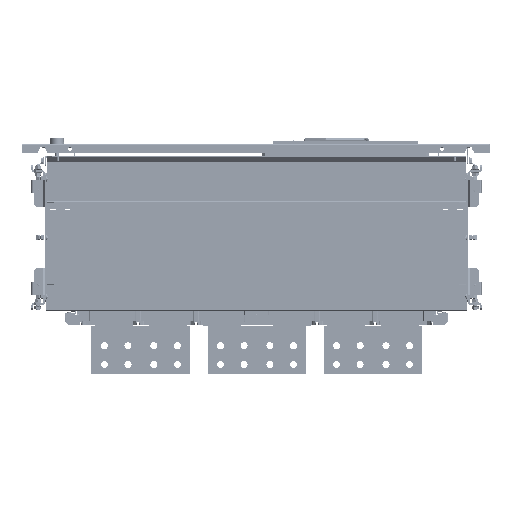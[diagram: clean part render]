
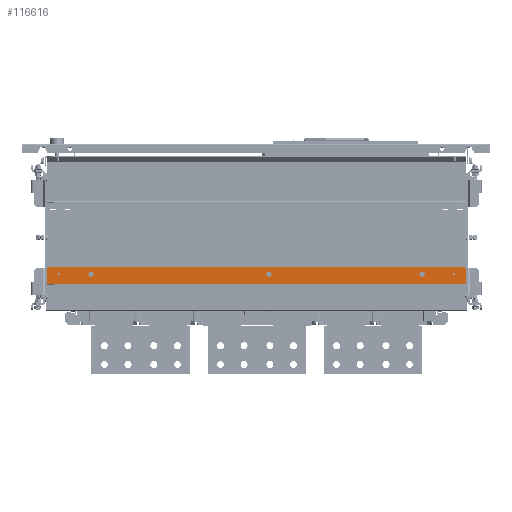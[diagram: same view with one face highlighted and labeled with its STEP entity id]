
A CAD part, front view. The second image highlights one B-rep face of the part: STEP entity #116616.
In plain terms, the highlighted planar face has unit normal (0, -1, 0).
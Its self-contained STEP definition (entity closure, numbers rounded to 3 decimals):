
#115081=CARTESIAN_POINT(' ',(-445.,-5.,-270.4));
#115082=VERTEX_POINT(' ',#115081);
#115246=CARTESIAN_POINT(' ',(-445.,-5.,-239.2));
#115251=DIRECTION(' ',(0.,0.,-1.));
#115256=VECTOR(' ',#115251,1.);
#115261=LINE('',#115246,#115256);
#115266=CARTESIAN_POINT(' ',(-445.,-5.,-239.2));
#115267=VERTEX_POINT(' ',#115266);
#115271=EDGE_CURVE(' ',#115267,#115082,#115261,.T.);
#115711=CARTESIAN_POINT(' ',(445.,-5.,-270.4));
#115712=VERTEX_POINT(' ',#115711);
#115731=CARTESIAN_POINT(' ',(-445.,-5.,-270.4));
#115736=DIRECTION(' ',(1.,0.,0.));
#115741=VECTOR(' ',#115736,1.);
#115746=LINE('',#115731,#115741);
#115751=EDGE_CURVE(' ',#115082,#115712,#115746,.T.);
#115811=DIRECTION(' ',(0.,-1.,0.));
#115816=CARTESIAN_POINT(' ',(-445.,-5.,-270.4));
#115821=DIRECTION(' ',(1.,0.,0.));
#115826=AXIS2_PLACEMENT_3D(' ',#115816,#115811,#115821);
#115831=PLANE('NONE',#115826);
#115836=CARTESIAN_POINT(' ',(445.,-5.,-239.2));
#115841=DIRECTION(' ',(0.,0.,-1.));
#115846=VECTOR(' ',#115841,1.);
#115851=LINE('',#115836,#115846);
#115856=CARTESIAN_POINT(' ',(445.,-5.,-239.2));
#115857=VERTEX_POINT(' ',#115856);
#115861=EDGE_CURVE(' ',#115857,#115712,#115851,.T.);
#115866=ORIENTED_EDGE(' ',*,*,#115861,.F.);
#115871=CARTESIAN_POINT(' ',(445.,-5.,-239.2));
#115876=DIRECTION(' ',(-0.707,0.,0.707));
#115881=VECTOR(' ',#115876,1.);
#115886=LINE('',#115871,#115881);
#115891=CARTESIAN_POINT(' ',(440.,-5.,-234.2));
#115892=VERTEX_POINT(' ',#115891);
#115896=EDGE_CURVE(' ',#115857,#115892,#115886,.T.);
#115901=ORIENTED_EDGE(' ',*,*,#115896,.T.);
#115906=CARTESIAN_POINT(' ',(-440.,-5.,-234.2));
#115911=DIRECTION(' ',(1.,0.,0.));
#115916=VECTOR(' ',#115911,1.);
#115921=LINE('',#115906,#115916);
#115926=CARTESIAN_POINT(' ',(-440.,-5.,-234.2));
#115927=VERTEX_POINT(' ',#115926);
#115931=EDGE_CURVE(' ',#115927,#115892,#115921,.T.);
#115936=ORIENTED_EDGE(' ',*,*,#115931,.F.);
#115941=CARTESIAN_POINT(' ',(-440.,-5.,-234.2));
#115946=DIRECTION(' ',(-0.707,0.,-0.707));
#115951=VECTOR(' ',#115946,1.);
#115956=LINE('',#115941,#115951);
#115961=EDGE_CURVE(' ',#115927,#115267,#115956,.T.);
#115966=ORIENTED_EDGE(' ',*,*,#115961,.T.);
#115971=ORIENTED_EDGE(' ',*,*,#115271,.T.);
#115976=ORIENTED_EDGE(' ',*,*,#115751,.T.);
#115981=EDGE_LOOP(' ',(#115866,#115901,#115936,#115966,#115971,#115976));
#115986=FACE_OUTER_BOUND(' ',#115981,.T.);
#115991=CARTESIAN_POINT(' ',(357.,-5.,-250.159));
#115996=DIRECTION(' ',(0.005,0.,1.));
#116001=VECTOR(' ',#115996,1.);
#116006=LINE('',#115991,#116001);
#116011=CARTESIAN_POINT(' ',(357.,-5.,-250.159));
#116012=VERTEX_POINT(' ',#116011);
#116016=CARTESIAN_POINT(' ',(357.,-5.,-250.1));
#116017=VERTEX_POINT(' ',#116016);
#116021=EDGE_CURVE(' ',#116012,#116017,#116006,.T.);
#116026=ORIENTED_EDGE(' ',*,*,#116021,.F.);
#116031=CARTESIAN_POINT(' ',(351.5,-5.,-250.1));
#116036=DIRECTION(' ',(0.,-1.,0.));
#116041=DIRECTION(' ',(-1.,0.,0.));
#116046=AXIS2_PLACEMENT_3D(' ',#116031,#116036,#116041);
#116051=CIRCLE('',#116046,5.5);
#116056=CARTESIAN_POINT(' ',(346.,-5.,-250.1));
#116057=VERTEX_POINT(' ',#116056);
#116061=EDGE_CURVE(' ',#116057,#116012,#116051,.T.);
#116066=ORIENTED_EDGE(' ',*,*,#116061,.F.);
#116071=CARTESIAN_POINT(' ',(351.5,-5.,-250.1));
#116076=DIRECTION(' ',(0.,-1.,0.));
#116081=DIRECTION(' ',(1.,0.,0.));
#116086=AXIS2_PLACEMENT_3D(' ',#116071,#116076,#116081);
#116091=CIRCLE('',#116086,5.5);
#116096=EDGE_CURVE(' ',#116017,#116057,#116091,.T.);
#116101=ORIENTED_EDGE(' ',*,*,#116096,.F.);
#116106=EDGE_LOOP(' ',(#116026,#116066,#116101));
#116111=FACE_BOUND(' ',#116106,.T.);
#116116=CARTESIAN_POINT(' ',(-357.,-5.,-250.041));
#116121=DIRECTION(' ',(-0.005,0.,-1.));
#116126=VECTOR(' ',#116121,1.);
#116131=LINE('',#116116,#116126);
#116136=CARTESIAN_POINT(' ',(-357.,-5.,-250.041));
#116137=VERTEX_POINT(' ',#116136);
#116141=CARTESIAN_POINT(' ',(-357.,-5.,-250.1));
#116142=VERTEX_POINT(' ',#116141);
#116146=EDGE_CURVE(' ',#116137,#116142,#116131,.T.);
#116151=ORIENTED_EDGE(' ',*,*,#116146,.F.);
#116156=CARTESIAN_POINT(' ',(-351.5,-5.,-250.1));
#116161=DIRECTION(' ',(0.,-1.,0.));
#116166=DIRECTION(' ',(1.,0.,0.));
#116171=AXIS2_PLACEMENT_3D(' ',#116156,#116161,#116166);
#116176=CIRCLE('',#116171,5.5);
#116181=CARTESIAN_POINT(' ',(-346.,-5.,-250.1));
#116182=VERTEX_POINT(' ',#116181);
#116186=EDGE_CURVE(' ',#116182,#116137,#116176,.T.);
#116191=ORIENTED_EDGE(' ',*,*,#116186,.F.);
#116196=CARTESIAN_POINT(' ',(-351.5,-5.,-250.1));
#116201=DIRECTION(' ',(0.,-1.,0.));
#116206=DIRECTION(' ',(-1.,0.,0.));
#116211=AXIS2_PLACEMENT_3D(' ',#116196,#116201,#116206);
#116216=CIRCLE('',#116211,5.5);
#116221=EDGE_CURVE(' ',#116142,#116182,#116216,.T.);
#116226=ORIENTED_EDGE(' ',*,*,#116221,.F.);
#116231=EDGE_LOOP(' ',(#116151,#116191,#116226));
#116236=FACE_BOUND(' ',#116231,.T.);
#116241=CARTESIAN_POINT(' ',(21.,-5.,-250.041));
#116246=DIRECTION(' ',(-0.005,0.,-1.));
#116251=VECTOR(' ',#116246,1.);
#116256=LINE('',#116241,#116251);
#116261=CARTESIAN_POINT(' ',(21.,-5.,-250.041));
#116262=VERTEX_POINT(' ',#116261);
#116266=CARTESIAN_POINT(' ',(21.,-5.,-250.1));
#116267=VERTEX_POINT(' ',#116266);
#116271=EDGE_CURVE(' ',#116262,#116267,#116256,.T.);
#116276=ORIENTED_EDGE(' ',*,*,#116271,.F.);
#116281=CARTESIAN_POINT(' ',(26.5,-5.,-250.1));
#116286=DIRECTION(' ',(0.,-1.,0.));
#116291=DIRECTION(' ',(1.,0.,0.));
#116296=AXIS2_PLACEMENT_3D(' ',#116281,#116286,#116291);
#116301=CIRCLE('',#116296,5.5);
#116306=CARTESIAN_POINT(' ',(32.,-5.,-250.1));
#116307=VERTEX_POINT(' ',#116306);
#116311=EDGE_CURVE(' ',#116307,#116262,#116301,.T.);
#116316=ORIENTED_EDGE(' ',*,*,#116311,.F.);
#116321=CARTESIAN_POINT(' ',(26.5,-5.,-250.1));
#116326=DIRECTION(' ',(0.,-1.,0.));
#116331=DIRECTION(' ',(-1.,0.,0.));
#116336=AXIS2_PLACEMENT_3D(' ',#116321,#116326,#116331);
#116341=CIRCLE('',#116336,5.5);
#116346=EDGE_CURVE(' ',#116267,#116307,#116341,.T.);
#116351=ORIENTED_EDGE(' ',*,*,#116346,.F.);
#116356=EDGE_LOOP(' ',(#116276,#116316,#116351));
#116361=FACE_BOUND(' ',#116356,.T.);
#116366=CARTESIAN_POINT(' ',(422.25,-5.,-250.1));
#116371=DIRECTION(' ',(-0.042,0.,0.999));
#116376=VECTOR(' ',#116371,1.);
#116381=LINE('',#116366,#116376);
#116386=CARTESIAN_POINT(' ',(422.25,-5.,-250.1));
#116387=VERTEX_POINT(' ',#116386);
#116391=CARTESIAN_POINT(' ',(422.242,-5.,-249.911));
#116392=VERTEX_POINT(' ',#116391);
#116396=EDGE_CURVE(' ',#116387,#116392,#116381,.T.);
#116401=ORIENTED_EDGE(' ',*,*,#116396,.F.);
#116406=CARTESIAN_POINT(' ',(420.,-5.,-250.1));
#116411=DIRECTION(' ',(0.,-1.,0.));
#116416=DIRECTION(' ',(-1.,0.,0.));
#116421=AXIS2_PLACEMENT_3D(' ',#116406,#116411,#116416);
#116426=CIRCLE('',#116421,2.25);
#116431=CARTESIAN_POINT(' ',(417.75,-5.,-250.1));
#116432=VERTEX_POINT(' ',#116431);
#116436=EDGE_CURVE(' ',#116432,#116387,#116426,.T.);
#116441=ORIENTED_EDGE(' ',*,*,#116436,.F.);
#116446=CARTESIAN_POINT(' ',(420.,-5.,-250.1));
#116451=DIRECTION(' ',(0.,-1.,0.));
#116456=DIRECTION(' ',(0.996,0.,0.084));
#116461=AXIS2_PLACEMENT_3D(' ',#116446,#116451,#116456);
#116466=CIRCLE('',#116461,2.25);
#116471=EDGE_CURVE(' ',#116392,#116432,#116466,.T.);
#116476=ORIENTED_EDGE(' ',*,*,#116471,.F.);
#116481=EDGE_LOOP(' ',(#116401,#116441,#116476));
#116486=FACE_BOUND(' ',#116481,.T.);
#116491=CARTESIAN_POINT(' ',(-422.25,-5.,-250.1));
#116496=DIRECTION(' ',(0.042,0.,-0.999));
#116501=VECTOR(' ',#116496,1.);
#116506=LINE('',#116491,#116501);
#116511=CARTESIAN_POINT(' ',(-422.25,-5.,-250.1));
#116512=VERTEX_POINT(' ',#116511);
#116516=CARTESIAN_POINT(' ',(-422.242,-5.,-250.289));
#116517=VERTEX_POINT(' ',#116516);
#116521=EDGE_CURVE(' ',#116512,#116517,#116506,.T.);
#116526=ORIENTED_EDGE(' ',*,*,#116521,.F.);
#116531=CARTESIAN_POINT(' ',(-420.,-5.,-250.1));
#116536=DIRECTION(' ',(0.,-1.,0.));
#116541=DIRECTION(' ',(1.,0.,0.));
#116546=AXIS2_PLACEMENT_3D(' ',#116531,#116536,#116541);
#116551=CIRCLE('',#116546,2.25);
#116556=CARTESIAN_POINT(' ',(-417.75,-5.,-250.1));
#116557=VERTEX_POINT(' ',#116556);
#116561=EDGE_CURVE(' ',#116557,#116512,#116551,.T.);
#116566=ORIENTED_EDGE(' ',*,*,#116561,.F.);
#116571=CARTESIAN_POINT(' ',(-420.,-5.,-250.1));
#116576=DIRECTION(' ',(0.,-1.,0.));
#116581=DIRECTION(' ',(-0.996,0.,-0.084));
#116586=AXIS2_PLACEMENT_3D(' ',#116571,#116576,#116581);
#116591=CIRCLE('',#116586,2.25);
#116596=EDGE_CURVE(' ',#116517,#116557,#116591,.T.);
#116601=ORIENTED_EDGE(' ',*,*,#116596,.F.);
#116606=EDGE_LOOP(' ',(#116526,#116566,#116601));
#116611=FACE_BOUND(' ',#116606,.T.);
#116616=ADVANCED_FACE('NONE',(#115986,#116111,#116236,#116361,#116486,#116611),#115831,.T.);
